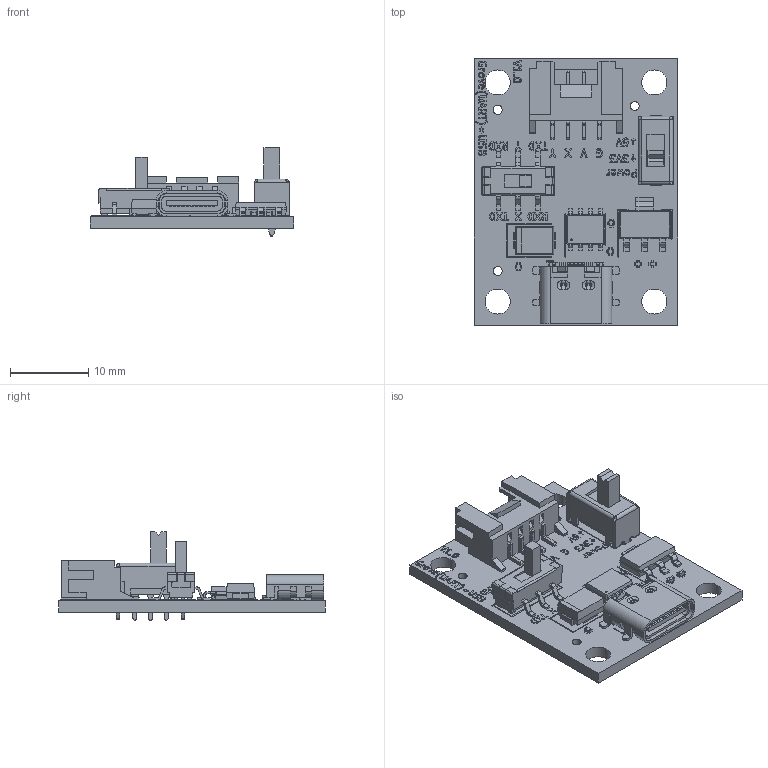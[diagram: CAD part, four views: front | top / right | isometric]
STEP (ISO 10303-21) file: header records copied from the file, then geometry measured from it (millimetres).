
FILE_DESCRIPTION(('KiCad electronic assembly'),'2;1');
FILE_NAME('grove-uart-usb.step','2025-03-18T16:56:05',('Pcbnew'),( 'Kicad'),'Open CASCADE STEP processor 7.8','KiCad to STEP converter' ,'Unknown');
FILE_SCHEMA(('AUTOMOTIVE_DESIGN { 1 0 10303 214 1 1 1 1 }'));
Length unit declared in the file: millimetre
Products named in the file (15): grove-uart-usb 1; C_0402; SOT-223; Grove_Connector_SMD_right_114020164; D_SMB; ss-3235s-l3; SOLID; SOLID001; R_0402; SS12D07VG4; SOP-8-1EP_3.9x4.9mm_Pitch1.27mm; USB_type_C_smd; grove-uart-usb_copper; grove-uart-usb_silkscreen; grove-uart-usb_PCB
Assembly tree (17 placements, depth 3):
  grove-uart-usb 1
    C_0402  x3
    SOT-223
    Grove_Connector_SMD_right_114020164
    D_SMB
    ss-3235s-l3
      SOLID
      SOLID001
    R_0402  x2
    SS12D07VG4
    SOP-8-1EP_3.9x4.9mm_Pitch1.27mm
    USB_type_C_smd
    grove-uart-usb_copper
    grove-uart-usb_silkscreen
    grove-uart-usb_PCB
Bounding box: 26 x 34 x 11.3 mm (x, y, z)
Volume: 1996.1 mm3; surface area: 4461.2 mm2
Topology: 55 solids, 164 shells, 2207 faces, 6960 edges, 5018 vertices
Faces by surface type: plane 1679, cylinder 400, bspline 70, sphere 24, torus 18, revolution 16
Full cylindrical faces by diameter (mm): 0.2 x1, 0.65 x4, 0.8 x3, 1.152 x3, 3.2 x4
Entity records: 84317 total; most frequent: CARTESIAN_POINT 14631, DIRECTION 11917, ORIENTED_EDGE 11884, EDGE_CURVE 6724, LINE 5389, VECTOR 5389, VERTEX_POINT 4878, AXIS2_PLACEMENT_3D 3256
